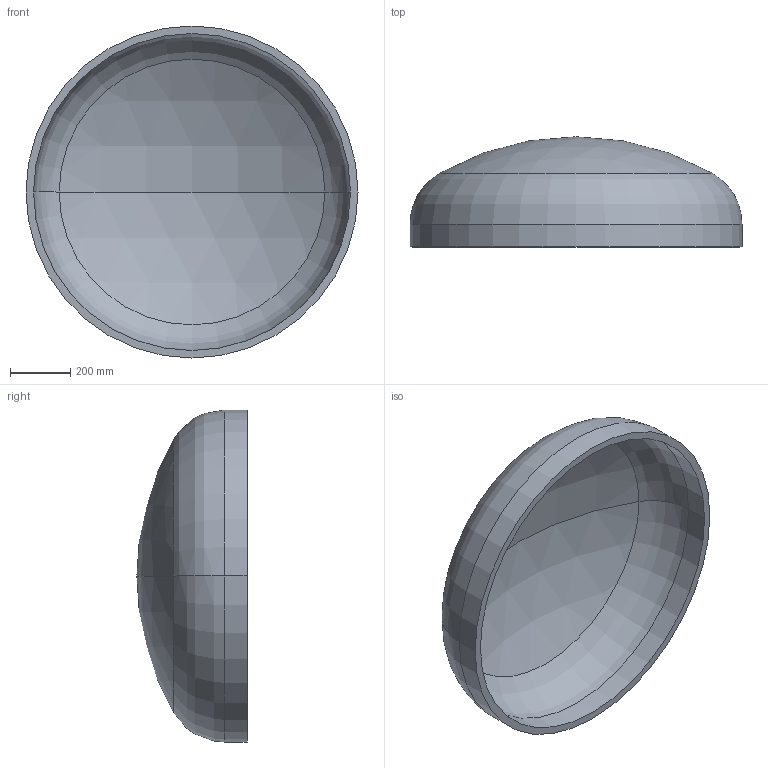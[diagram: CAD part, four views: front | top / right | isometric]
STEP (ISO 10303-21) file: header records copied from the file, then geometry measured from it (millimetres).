
FILE_DESCRIPTION (( 'STEP AP203' ), '1' );
FILE_NAME ('DIN 28013 Korbbogenform_-_Boden DIN 28013 - 1100 x 75 - I - s=25.step', '2016-07-01T09:04:09', ( '' ), ( '' ), 'SwSTEP 2.0', 'SolidWorks 2013', '' );
FILE_SCHEMA (( 'CONFIG_CONTROL_DESIGN' ));
Length unit declared in the file: millimetre
Products named in the file (1): DIN 28013 Korbbogenform_-_Boden DIN 28013 - 1100 x 75 - I - s=25
Bounding box: 1100 x 365.12 x 1100 mm (x, y, z)
Volume: 38291641.1 mm3; surface area: 3149069.7 mm2
Topology: 1 solids, 1 shells, 13 faces, 24 edges, 14 vertices
Faces by surface type: torus 4, cylinder 4, sphere 4, plane 1
Entity records: 407 total; most frequent: DIRECTION 72, CARTESIAN_POINT 52, ORIENTED_EDGE 48, AXIS2_PLACEMENT_3D 34, EDGE_CURVE 24, CIRCLE 20, EDGE_LOOP 14, VERTEX_POINT 14
